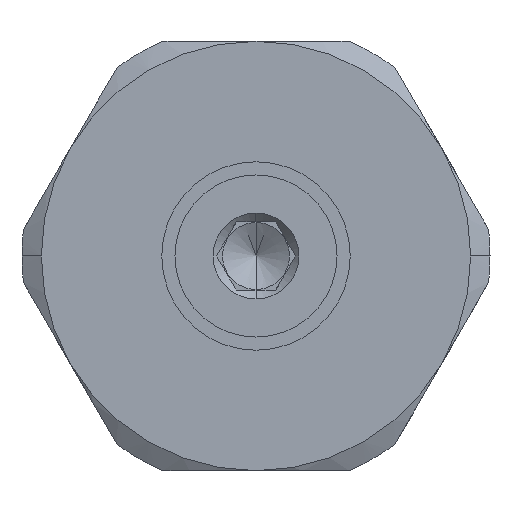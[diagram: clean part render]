
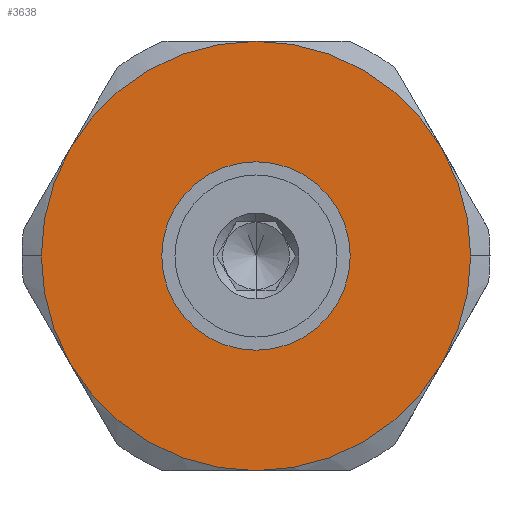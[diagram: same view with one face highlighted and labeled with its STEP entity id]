
A CAD part, left-side view. The second image highlights one B-rep face of the part: STEP entity #3638.
In plain terms, the highlighted planar face has unit normal (-1, 0, 0).
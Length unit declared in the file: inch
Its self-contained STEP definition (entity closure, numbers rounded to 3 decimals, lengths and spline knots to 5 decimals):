
#3234=CARTESIAN_POINT('',(-0.011,-0.5,1.829));
#3235=VERTEX_POINT('',#3234);
#3251=CARTESIAN_POINT('',(-0.011,-0.43301,2.079));
#3252=VERTEX_POINT('',#3251);
#3266=CARTESIAN_POINT('',(-0.011,0.,1.829));
#3267=DIRECTION('',(-1.0,0.0,0.0));
#3268=DIRECTION('',(0.0,-1.0,0.0));
#3269=AXIS2_PLACEMENT_3D('',#3266,#3267,#3268);
#3270=CIRCLE('',#3269,0.5);
#3271=EDGE_CURVE('',#3235,#3252,#3270,.T.);
#3281=CARTESIAN_POINT('',(-0.011,0.5,1.829));
#3282=VERTEX_POINT('',#3281);
#3289=CARTESIAN_POINT('',(-0.011,0.43301,2.079));
#3290=VERTEX_POINT('',#3289);
#3291=CARTESIAN_POINT('',(-0.011,0.,1.829));
#3292=DIRECTION('',(-1.0,0.0,0.0));
#3293=DIRECTION('',(0.0,-1.0,0.0));
#3294=AXIS2_PLACEMENT_3D('',#3291,#3292,#3293);
#3295=CIRCLE('',#3294,0.5);
#3296=EDGE_CURVE('',#3290,#3282,#3295,.T.);
#3320=CARTESIAN_POINT('',(-0.011,-0.2195,1.829));
#3321=VERTEX_POINT('',#3320);
#3330=CARTESIAN_POINT('',(-0.011,0.2195,1.829));
#3331=VERTEX_POINT('',#3330);
#3332=CARTESIAN_POINT('',(-0.011,0.,1.829));
#3333=DIRECTION('',(1.0,0.0,0.0));
#3334=DIRECTION('',(0.0,-1.0,0.0));
#3335=AXIS2_PLACEMENT_3D('',#3332,#3333,#3334);
#3336=CIRCLE('',#3335,0.2195);
#3337=EDGE_CURVE('',#3331,#3321,#3336,.T.);
#3565=CARTESIAN_POINT('',(-0.011,0.,1.829));
#3566=DIRECTION('',(1.0,0.0,0.0));
#3567=DIRECTION('',(0.0,-1.0,0.0));
#3568=AXIS2_PLACEMENT_3D('',#3565,#3566,#3567);
#3569=CIRCLE('',#3568,0.2195);
#3570=EDGE_CURVE('',#3321,#3331,#3569,.T.);
#3575=CARTESIAN_POINT('',(-0.011,0.,1.829));
#3576=DIRECTION('',(1.0,0.0,0.0));
#3577=DIRECTION('',(0.0,0.0,1.0));
#3578=AXIS2_PLACEMENT_3D('',#3575,#3576,#3577);
#3579=PLANE('',#3578);
#3580=CARTESIAN_POINT('',(-0.011,0.43301,1.579));
#3581=VERTEX_POINT('',#3580);
#3582=CARTESIAN_POINT('',(-0.011,0.,1.329));
#3583=VERTEX_POINT('',#3582);
#3584=CARTESIAN_POINT('',(-0.011,0.,1.829));
#3585=DIRECTION('',(-1.0,0.0,0.0));
#3586=DIRECTION('',(0.0,-1.0,0.0));
#3587=AXIS2_PLACEMENT_3D('',#3584,#3585,#3586);
#3588=CIRCLE('',#3587,0.5);
#3589=EDGE_CURVE('',#3581,#3583,#3588,.T.);
#3590=ORIENTED_EDGE('',*,*,#3589,.T.);
#3591=CARTESIAN_POINT('',(-0.011,-0.43301,1.579));
#3592=VERTEX_POINT('',#3591);
#3593=CARTESIAN_POINT('',(-0.011,0.,1.829));
#3594=DIRECTION('',(-1.0,0.0,0.0));
#3595=DIRECTION('',(0.0,-1.0,0.0));
#3596=AXIS2_PLACEMENT_3D('',#3593,#3594,#3595);
#3597=CIRCLE('',#3596,0.5);
#3598=EDGE_CURVE('',#3583,#3592,#3597,.T.);
#3599=ORIENTED_EDGE('',*,*,#3598,.T.);
#3600=CARTESIAN_POINT('',(-0.011,0.,1.829));
#3601=DIRECTION('',(-1.0,0.0,0.0));
#3602=DIRECTION('',(0.0,-1.0,0.0));
#3603=AXIS2_PLACEMENT_3D('',#3600,#3601,#3602);
#3604=CIRCLE('',#3603,0.5);
#3605=EDGE_CURVE('',#3592,#3235,#3604,.T.);
#3606=ORIENTED_EDGE('',*,*,#3605,.T.);
#3607=ORIENTED_EDGE('',*,*,#3271,.T.);
#3608=CARTESIAN_POINT('',(-0.011,0.,2.329));
#3609=VERTEX_POINT('',#3608);
#3610=CARTESIAN_POINT('',(-0.011,0.,1.829));
#3611=DIRECTION('',(-1.0,0.0,0.0));
#3612=DIRECTION('',(0.0,-1.0,0.0));
#3613=AXIS2_PLACEMENT_3D('',#3610,#3611,#3612);
#3614=CIRCLE('',#3613,0.5);
#3615=EDGE_CURVE('',#3252,#3609,#3614,.T.);
#3616=ORIENTED_EDGE('',*,*,#3615,.T.);
#3617=CARTESIAN_POINT('',(-0.011,0.,1.829));
#3618=DIRECTION('',(-1.0,0.0,0.0));
#3619=DIRECTION('',(0.0,-1.0,0.0));
#3620=AXIS2_PLACEMENT_3D('',#3617,#3618,#3619);
#3621=CIRCLE('',#3620,0.5);
#3622=EDGE_CURVE('',#3609,#3290,#3621,.T.);
#3623=ORIENTED_EDGE('',*,*,#3622,.T.);
#3624=ORIENTED_EDGE('',*,*,#3296,.T.);
#3625=CARTESIAN_POINT('',(-0.011,0.,1.829));
#3626=DIRECTION('',(-1.0,0.0,0.0));
#3627=DIRECTION('',(0.0,-1.0,0.0));
#3628=AXIS2_PLACEMENT_3D('',#3625,#3626,#3627);
#3629=CIRCLE('',#3628,0.5);
#3630=EDGE_CURVE('',#3282,#3581,#3629,.T.);
#3631=ORIENTED_EDGE('',*,*,#3630,.T.);
#3632=EDGE_LOOP('',(#3590,#3599,#3606,#3607,#3616,#3623,#3624,#3631));
#3633=FACE_OUTER_BOUND('',#3632,.T.);
#3634=ORIENTED_EDGE('',*,*,#3570,.T.);
#3635=ORIENTED_EDGE('',*,*,#3337,.T.);
#3636=EDGE_LOOP('',(#3634,#3635));
#3637=FACE_BOUND('',#3636,.T.);
#3638=ADVANCED_FACE('',(#3633,#3637),#3579,.F.);
